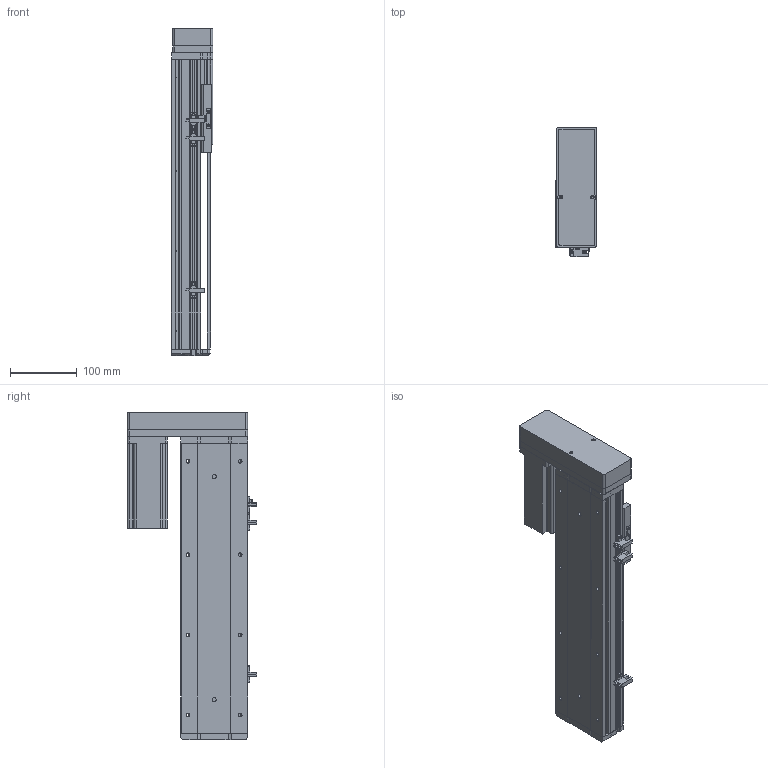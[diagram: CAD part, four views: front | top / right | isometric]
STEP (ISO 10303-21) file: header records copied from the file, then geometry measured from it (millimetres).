
FILE_DESCRIPTION (( 'STEP AP214' ), '1' );
FILE_NAME ('KSD100S-S250-ML-CM.STEP', '2019-08-30T05:55:19', ( '微软用户' ), ( '微软中国' ), 'SwSTEP 2.0', 'SolidWorks 2014', '' );
FILE_SCHEMA (( 'AUTOMOTIVE_DESIGN' ));
Length unit declared in the file: millimetre
Products named in the file (11): KSD100S-S250-ML-CM; 悵誘欶酘衵殏; 台达ECMA－C20604AS伺服电机; 100宽马达安装板连板左右折丝杆; U倰嫖萇EEㄜSX672; 覜茼え100遵圉猾敕; 100宽防尘板丝杆250行程; 100遵鎮湛假蚾啣; 100宽滚珠螺姆安装板半封闭; 100遵傷啣; 100宽底板半封闭丝杆250行程
Assembly tree (12 placements, depth 2):
  KSD100S-S250-ML-CM
    100宽底板半封闭丝杆250行程
    100遵傷啣
    100宽滚珠螺姆安装板半封闭
    100遵鎮湛假蚾啣
    100宽防尘板丝杆250行程
    覜茼え100遵圉猾敕
    U倰嫖萇EEㄜSX672  x3
    100宽马达安装板连板左右折丝杆
    台达ECMA－C20604AS伺服电机
    悵誘欶酘衵殏
Bounding box: 62 x 193.7 x 490.5 mm (x, y, z)
Volume: 1570721.2 mm3; surface area: 469842.4 mm2
Topology: 13 solids, 13 shells, 1123 faces, 3142 edges, 2011 vertices
Faces by surface type: cylinder 532, plane 492, cone 99
Entity records: 37623 total; most frequent: CARTESIAN_POINT 6715, DIRECTION 5225, ORIENTED_EDGE 4992, EDGE_CURVE 2496, AXIS2_PLACEMENT_3D 1885, VERTEX_POINT 1635, LINE 1455, VECTOR 1455
